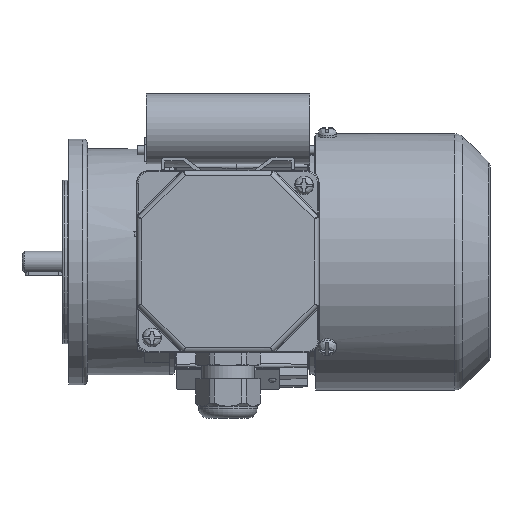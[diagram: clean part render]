
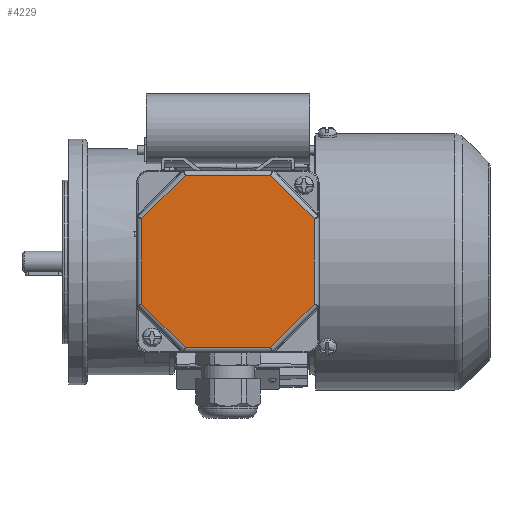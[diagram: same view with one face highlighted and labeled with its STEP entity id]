
A CAD part, top view. The second image highlights one B-rep face of the part: STEP entity #4229.
In plain terms, the highlighted planar face has unit normal (0, 0, 1).
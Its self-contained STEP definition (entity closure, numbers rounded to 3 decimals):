
#4229 = ADVANCED_FACE( '', ( #8771 ), #8772, .T. );
#8771 = FACE_OUTER_BOUND( '', #18098, .T. );
#8772 = PLANE( '', #18099 );
#18098 = EDGE_LOOP( '', ( #31887, #31888, #31889, #31890, #31891, #31892, #31893, #31894 ) );
#18099 = AXIS2_PLACEMENT_3D( '', #31895, #31896, #31897 );
#31887 = ORIENTED_EDGE( '', *, *, #39525, .T. );
#31888 = ORIENTED_EDGE( '', *, *, #41221, .T. );
#31889 = ORIENTED_EDGE( '', *, *, #38627, .T. );
#31890 = ORIENTED_EDGE( '', *, *, #39222, .T. );
#31891 = ORIENTED_EDGE( '', *, *, #41222, .T. );
#31892 = ORIENTED_EDGE( '', *, *, #37003, .T. );
#31893 = ORIENTED_EDGE( '', *, *, #41223, .T. );
#31894 = ORIENTED_EDGE( '', *, *, #41224, .T. );
#31895 = CARTESIAN_POINT( '', ( -39., 39., 12. ) );
#31896 = DIRECTION( '', ( 0., 0., 1. ) );
#31897 = DIRECTION( '', ( 1., 0., 0. ) );
#37003 = EDGE_CURVE( '', #43446, #43447, #43448, .T. );
#38627 = EDGE_CURVE( '', #46037, #44140, #46234, .F. );
#39222 = EDGE_CURVE( '', #44140, #47170, #47171, .T. );
#39525 = EDGE_CURVE( '', #47469, #47627, #47629, .F. );
#41221 = EDGE_CURVE( '', #47627, #46037, #49942, .T. );
#41222 = EDGE_CURVE( '', #47170, #43446, #49943, .F. );
#41223 = EDGE_CURVE( '', #43447, #49944, #49945, .F. );
#41224 = EDGE_CURVE( '', #49944, #47469, #49946, .T. );
#43446 = VERTEX_POINT( '', #51896 );
#43447 = VERTEX_POINT( '', #51897 );
#43448 = LINE( '', #51898, #51899 );
#44140 = VERTEX_POINT( '', #53417 );
#46037 = VERTEX_POINT( '', #57125 );
#46234 = LINE( '', #57501, #57502 );
#47170 = VERTEX_POINT( '', #59669 );
#47171 = LINE( '', #59670, #59671 );
#47469 = VERTEX_POINT( '', #60340 );
#47627 = VERTEX_POINT( '', #60649 );
#47629 = LINE( '', #60651, #60652 );
#49942 = LINE( '', #65528, #65529 );
#49943 = LINE( '', #65530, #65531 );
#49944 = VERTEX_POINT( '', #65532 );
#49945 = LINE( '', #65533, #65534 );
#49946 = LINE( '', #65535, #65536 );
#51896 = CARTESIAN_POINT( '', ( -36.825, -18.255, 12. ) );
#51897 = CARTESIAN_POINT( '', ( -18.255, -36.825, 12. ) );
#51898 = CARTESIAN_POINT( '', ( -17.679, -37.401, 12. ) );
#51899 = VECTOR( '', #68530, 1000. );
#53417 = CARTESIAN_POINT( '', ( -18.255, 36.825, 12. ) );
#57125 = CARTESIAN_POINT( '', ( 18.255, 36.825, 12. ) );
#57501 = CARTESIAN_POINT( '', ( -19.069, 36.825, 12. ) );
#57502 = VECTOR( '', #70809, 1000. );
#59669 = CARTESIAN_POINT( '', ( -36.825, 18.255, 12. ) );
#59670 = CARTESIAN_POINT( '', ( -37.401, 17.679, 12. ) );
#59671 = VECTOR( '', #71562, 1000. );
#60340 = CARTESIAN_POINT( '', ( 36.825, -18.255, 12. ) );
#60649 = CARTESIAN_POINT( '', ( 36.825, 18.255, 12. ) );
#60651 = CARTESIAN_POINT( '', ( 36.825, 19.069, 12. ) );
#60652 = VECTOR( '', #71903, 1000. );
#65528 = CARTESIAN_POINT( '', ( 17.679, 37.401, 12. ) );
#65529 = VECTOR( '', #73863, 1000. );
#65530 = CARTESIAN_POINT( '', ( -36.825, -19.069, 12. ) );
#65531 = VECTOR( '', #73864, 1000. );
#65532 = CARTESIAN_POINT( '', ( 18.255, -36.825, 12. ) );
#65533 = CARTESIAN_POINT( '', ( 19.069, -36.825, 12. ) );
#65534 = VECTOR( '', #73865, 1000. );
#65535 = CARTESIAN_POINT( '', ( 37.401, -17.679, 12. ) );
#65536 = VECTOR( '', #73866, 1000. );
#68530 = DIRECTION( '', ( 0.707, -0.707, 0. ) );
#70809 = DIRECTION( '', ( 1., 0., 0. ) );
#71562 = DIRECTION( '', ( -0.707, -0.707, 0. ) );
#71903 = DIRECTION( '', ( 0., -1., 0. ) );
#73863 = DIRECTION( '', ( -0.707, 0.707, 0. ) );
#73864 = DIRECTION( '', ( 0., 1., 0. ) );
#73865 = DIRECTION( '', ( -1., 0., 0. ) );
#73866 = DIRECTION( '', ( 0.707, 0.707, 0. ) );
